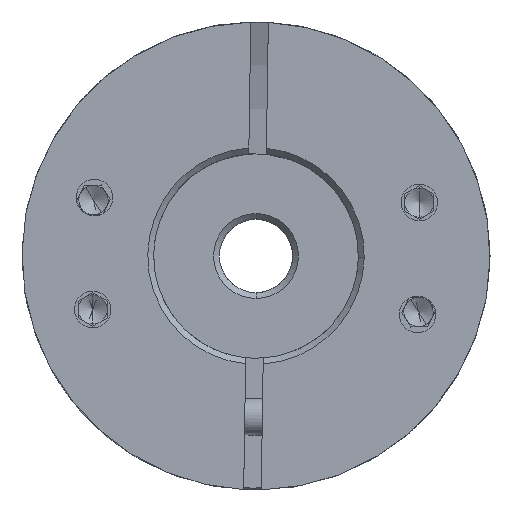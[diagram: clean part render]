
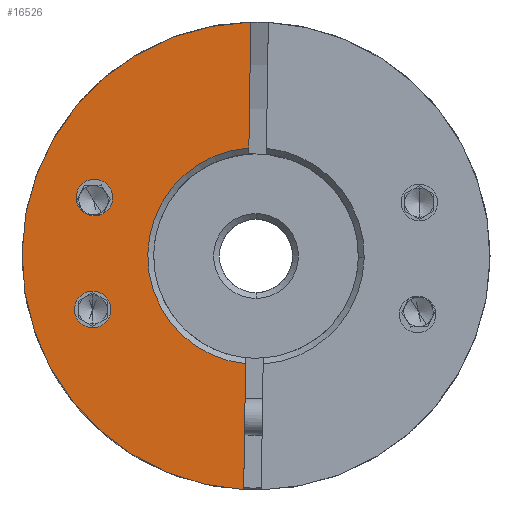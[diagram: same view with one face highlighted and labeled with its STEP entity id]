
A CAD part, front view. The second image highlights one B-rep face of the part: STEP entity #16526.
In plain terms, the highlighted planar face has unit normal (0, -1, 0).
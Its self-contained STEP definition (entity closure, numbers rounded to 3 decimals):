
#137 = AXIS2_PLACEMENT_3D ( 'NONE', #14992, #3875, #2157 ) ;
#143 = CIRCLE ( 'NONE', #9902, 7.4 ) ;
#332 = CARTESIAN_POINT ( 'NONE',  ( -70.345, -19.411, -3.656 ) ) ;
#845 = AXIS2_PLACEMENT_3D ( 'NONE', #22678, #7498, #20633 ) ;
#858 = DIRECTION ( 'NONE',  ( 0., -1., 0. ) ) ;
#865 = EDGE_LOOP ( 'NONE', ( #14056, #12351, #10981, #18403, #14109 ) ) ;
#1057 = CARTESIAN_POINT ( 'NONE',  ( -59.687, -19.411, 6.008 ) ) ;
#1694 = AXIS2_PLACEMENT_3D ( 'NONE', #15973, #858, #17823 ) ;
#2157 = DIRECTION ( 'NONE',  ( 1., 0., -0.015 ) ) ;
#2420 = AXIS2_PLACEMENT_3D ( 'NONE', #332, #9305, #16816 ) ;
#2791 = FACE_BOUND ( 'NONE', #14609, .T. ) ;
#3076 = DIRECTION ( 'NONE',  ( 0., 1., 0. ) ) ;
#3488 = EDGE_CURVE ( 'NONE', #10504, #16824, #143, .T. ) ;
#3758 = CARTESIAN_POINT ( 'NONE',  ( -69.095, -19.411, -3.675 ) ) ;
#3859 = DIRECTION ( 'NONE',  ( 1., 0., -0.015 ) ) ;
#3875 = DIRECTION ( 'NONE',  ( 0., -1., 0. ) ) ;
#4322 = AXIS2_PLACEMENT_3D ( 'NONE', #10499, #3076, #15824 ) ;
#4411 = EDGE_CURVE ( 'NONE', #21096, #6106, #20219, .T. ) ;
#4783 = EDGE_CURVE ( 'NONE', #18085, #19895, #5019, .T. ) ;
#5019 = CIRCLE ( 'NONE', #2420, 1.25 ) ;
#5527 = CARTESIAN_POINT ( 'NONE',  ( -71.595, -19.411, -3.637 ) ) ;
#6106 = VERTEX_POINT ( 'NONE', #21989 ) ;
#6720 = CARTESIAN_POINT ( 'NONE',  ( -59.666, -19.411, 7.384 ) ) ;
#7498 = DIRECTION ( 'NONE',  ( 0., -1., 0. ) ) ;
#7644 = PLANE ( 'NONE',  #137 ) ;
#7720 = EDGE_CURVE ( 'NONE', #18221, #23976, #18342, .T. ) ;
#7819 = AXIS2_PLACEMENT_3D ( 'NONE', #11252, #20686, #3859 ) ;
#8752 = CARTESIAN_POINT ( 'NONE',  ( -60.021, -19.411, -15.978 ) ) ;
#9143 = EDGE_CURVE ( 'NONE', #23976, #18221, #19979, .T. ) ;
#9305 = DIRECTION ( 'NONE',  ( 0., 1., 0. ) ) ;
#9435 = VECTOR ( 'NONE', #19294, 1000. ) ;
#9902 = AXIS2_PLACEMENT_3D ( 'NONE', #17395, #21262, #22966 ) ;
#10153 = CARTESIAN_POINT ( 'NONE',  ( -59.687, -19.411, 6.008 ) ) ;
#10409 = EDGE_LOOP ( 'NONE', ( #10611, #10989 ) ) ;
#10499 = CARTESIAN_POINT ( 'NONE',  ( -70.229, -19.411, 3.994 ) ) ;
#10504 = VERTEX_POINT ( 'NONE', #14971 ) ;
#10589 = CARTESIAN_POINT ( 'NONE',  ( -59.535, -19.411, 15.996 ) ) ;
#10611 = ORIENTED_EDGE ( 'NONE', *, *, #13020, .T. ) ;
#10950 = DIRECTION ( 'NONE',  ( 1., 0., -0.015 ) ) ;
#10981 = ORIENTED_EDGE ( 'NONE', *, *, #14935, .F. ) ;
#10989 = ORIENTED_EDGE ( 'NONE', *, *, #4783, .T. ) ;
#11252 = CARTESIAN_POINT ( 'NONE',  ( -70.229, -19.411, 3.994 ) ) ;
#11727 = EDGE_CURVE ( 'NONE', #6106, #16887, #18130, .T. ) ;
#12351 = ORIENTED_EDGE ( 'NONE', *, *, #3488, .T. ) ;
#12967 = CARTESIAN_POINT ( 'NONE',  ( -70.345, -19.411, -3.656 ) ) ;
#13020 = EDGE_CURVE ( 'NONE', #19895, #18085, #18375, .T. ) ;
#13396 = CARTESIAN_POINT ( 'NONE',  ( -71.479, -19.411, 4.013 ) ) ;
#14056 = ORIENTED_EDGE ( 'NONE', *, *, #23559, .F. ) ;
#14109 = ORIENTED_EDGE ( 'NONE', *, *, #11727, .T. ) ;
#14503 = VECTOR ( 'NONE', #23679, 1000. ) ;
#14609 = EDGE_LOOP ( 'NONE', ( #22726, #22707 ) ) ;
#14935 = EDGE_CURVE ( 'NONE', #21096, #16824, #20926, .T. ) ;
#14971 = CARTESIAN_POINT ( 'NONE',  ( -59.89, -19.411, -7.366 ) ) ;
#14992 = CARTESIAN_POINT ( 'NONE',  ( -59.178, -19.411, 0. ) ) ;
#15195 = AXIS2_PLACEMENT_3D ( 'NONE', #12967, #20558, #10950 ) ;
#15198 = CARTESIAN_POINT ( 'NONE',  ( -68.979, -19.411, 3.975 ) ) ;
#15824 = DIRECTION ( 'NONE',  ( 1., 0., -0.015 ) ) ;
#15973 = CARTESIAN_POINT ( 'NONE',  ( -59.178, -19.411, 0. ) ) ;
#16245 = FACE_OUTER_BOUND ( 'NONE', #865, .T. ) ;
#16517 = FACE_BOUND ( 'NONE', #10409, .T. ) ;
#16526 = ADVANCED_FACE ( 'NONE', ( #16245, #2791, #16517 ), #7644, .T. ) ;
#16816 = DIRECTION ( 'NONE',  ( 1., 0., -0.015 ) ) ;
#16824 = VERTEX_POINT ( 'NONE', #6720 ) ;
#16887 = VERTEX_POINT ( 'NONE', #8752 ) ;
#17395 = CARTESIAN_POINT ( 'NONE',  ( -59.178, -19.411, 0. ) ) ;
#17823 = DIRECTION ( 'NONE',  ( 1., 0., -0.015 ) ) ;
#18085 = VERTEX_POINT ( 'NONE', #3758 ) ;
#18130 = CIRCLE ( 'NONE', #1694, 16. ) ;
#18221 = VERTEX_POINT ( 'NONE', #13396 ) ;
#18342 = CIRCLE ( 'NONE', #4322, 1.25 ) ;
#18375 = CIRCLE ( 'NONE', #15195, 1.25 ) ;
#18403 = ORIENTED_EDGE ( 'NONE', *, *, #4411, .T. ) ;
#18475 = LINE ( 'NONE', #10153, #9435 ) ;
#19294 = DIRECTION ( 'NONE',  ( -0.015, 0., -1. ) ) ;
#19895 = VERTEX_POINT ( 'NONE', #5527 ) ;
#19979 = CIRCLE ( 'NONE', #7819, 1.25 ) ;
#20219 = CIRCLE ( 'NONE', #845, 16. ) ;
#20558 = DIRECTION ( 'NONE',  ( 0., 1., 0. ) ) ;
#20633 = DIRECTION ( 'NONE',  ( 1., 0., -0.015 ) ) ;
#20686 = DIRECTION ( 'NONE',  ( 0., 1., 0. ) ) ;
#20926 = LINE ( 'NONE', #1057, #14503 ) ;
#21096 = VERTEX_POINT ( 'NONE', #10589 ) ;
#21262 = DIRECTION ( 'NONE',  ( 0., 1., 0. ) ) ;
#21989 = CARTESIAN_POINT ( 'NONE',  ( -75.176, -19.411, 0.243 ) ) ;
#22678 = CARTESIAN_POINT ( 'NONE',  ( -59.178, -19.411, 0. ) ) ;
#22707 = ORIENTED_EDGE ( 'NONE', *, *, #9143, .T. ) ;
#22726 = ORIENTED_EDGE ( 'NONE', *, *, #7720, .T. ) ;
#22966 = DIRECTION ( 'NONE',  ( 1., 0., -0.015 ) ) ;
#23559 = EDGE_CURVE ( 'NONE', #10504, #16887, #18475, .T. ) ;
#23679 = DIRECTION ( 'NONE',  ( -0.015, 0., -1. ) ) ;
#23976 = VERTEX_POINT ( 'NONE', #15198 ) ;
